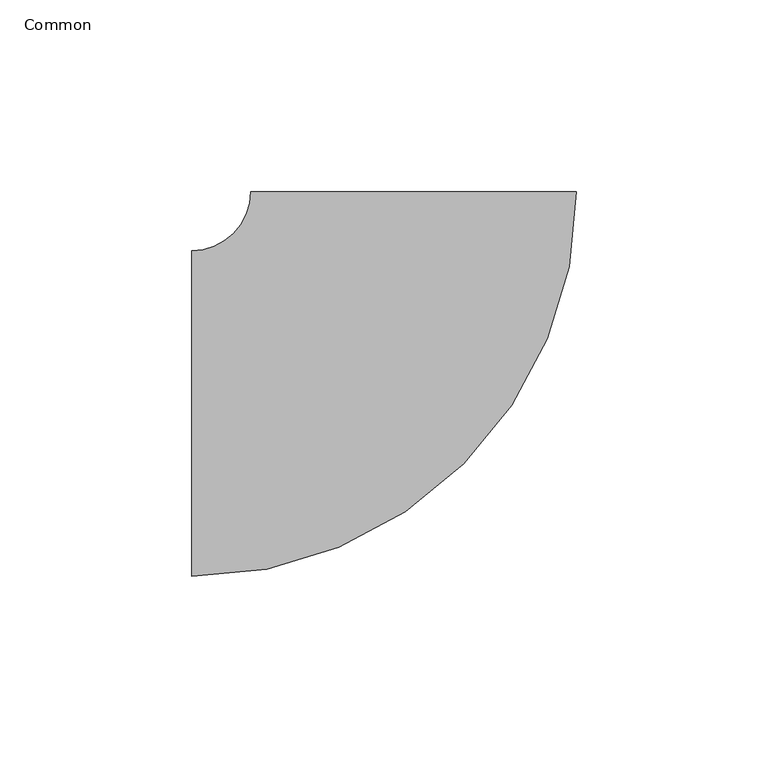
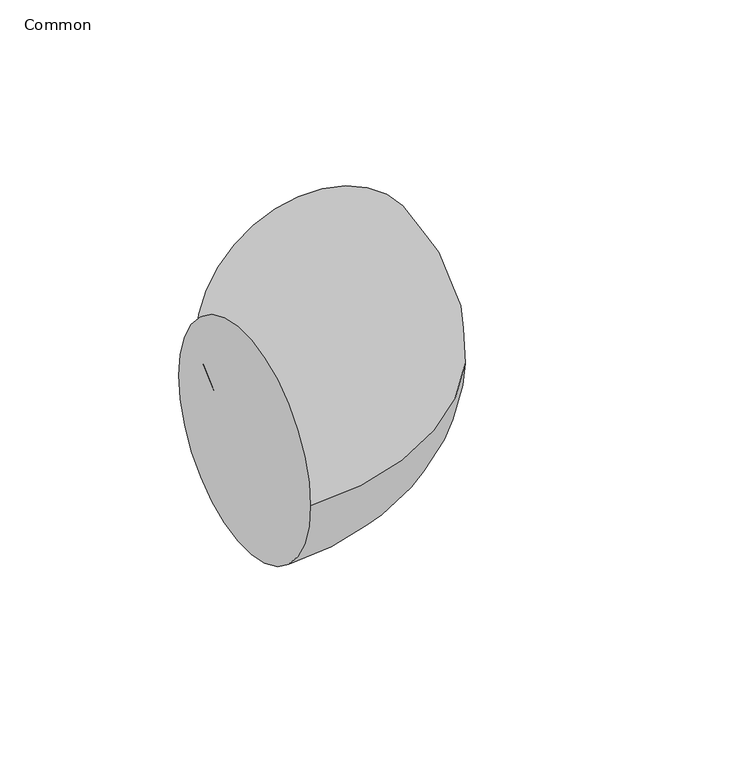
"""IFC4 building model written with IfcOpenShell, lengths in millimetres: pipe fitting geometry, 011_エルボ : Common."""

from ifc_helpers import new_model, si_unit, point, frame, origin, place, context, project, spatial, circle_curve, ellipse_curve, trimmed, source, transform, mapped, element, save
from ifc_brep_helpers import plane_surface, revolved_surface, advanced_brep


def common_9c93153a(model_context):
    return source(origin(), model_context, "Body", "AdvancedBrep", [
        advanced_brep(
        [(-58.0, -42.5, 0.0), (-58.0, 42.5, 0.0), (42.5, 58.0, 0.0), (-42.5, 58.0, 0.0)],
        [
            (0, 1, circle_curve(frame((-58.0, 0.0, 0.0), z_axis=(-1.0, 0.0, 0.0), x_axis=(0.0, 1.0, 0.0)), 42.5)),
            (1, 0, circle_curve(frame((-58.0, 0.0, 0.0), z_axis=(-1.0, 0.0, 0.0), x_axis=(0.0, 1.0, 0.0)), 42.5)),
            (2, 3, circle_curve(frame((0.0, 58.0, 0.0), z_axis=(0.0, 1.0, 0.0), x_axis=(-1.0, 0.0, 0.0)), 42.5)),
            (3, 2, circle_curve(frame((0.0, 58.0, 0.0), z_axis=(0.0, 1.0, 0.0), x_axis=(-1.0, 0.0, 0.0)), 42.5)),
            (3, 1, circle_curve(frame((-58.0, 58.0, 0.0), z_axis=(0.0, 0.0, -1.0), x_axis=(0.0, -1.0, 0.0)), 15.5)),
            (0, 2, circle_curve(frame((-58.0, 58.0, 0.0), z_axis=(0.0, 0.0, 1.0), x_axis=(0.0, -1.0, 0.0)), 100.5)),
        ],
        [
            plane_surface(frame((-58.0, 0.0, 0.0), z_axis=(-1.0, 0.0, 0.0), x_axis=(0.0, 0.0, 1.0))),
            plane_surface(frame((0.0, 58.0, 0.0), z_axis=(0.0, 1.0, 0.0), x_axis=(0.0, 0.0, 1.0))),
            revolved_surface(trimmed(ellipse_curve(frame((-58.0, 0.0, 0.0), z_axis=(-1.0, 0.0, 0.0), x_axis=(0.0, 1.0, 0.0)), 42.5, 42.5), [point((-58.0, -42.5, 0.0))], [point((-58.0, 42.5, 0.0))], True, "CARTESIAN"), (-58.0, 58.0, 0.0), (0.0, 0.0, 1.0)),
            revolved_surface(trimmed(ellipse_curve(frame((-58.0, 0.0, 0.0), z_axis=(-1.0, 0.0, 0.0), x_axis=(0.0, 1.0, 0.0)), 42.5, 42.5), [point((-58.0, 42.5, 0.0))], [point((-58.0, -42.5, 0.0))], True, "CARTESIAN"), (-58.0, 58.0, 0.0), (0.0, 0.0, 1.0)),
        ],
        [
            (0, [[1, 2]]),
            (1, [[3, 4]]),
            (2, [[5, -1, 6, -4]]),
            (3, [[-6, -2, -5, -3]]),
        ],
    ),
    ])


if __name__ == "__main__":
    model = new_model("IFC4")
    model_context = context("Model", 3, world=origin())
    ifc_project = project(units=[si_unit("LENGTHUNIT", "METRE", prefix="MILLI")], contexts=[model_context])
    site = spatial("IfcSite", under=ifc_project)
    building = spatial("IfcBuilding", under=site)
    placement = place(None, origin())
    common_shape = common_9c93153a(model_context)
    element("IfcPipeFitting", 1, ObjectType="011_エルボ : Common", at=placement, inside=building, context=model_context, shape_type="MappedRepresentation", body=[
        mapped(common_shape, transform((0.0, 0.0, 0.0), x_axis=(1.0, 0.0, 0.0), y_axis=(0.0, 1.0, 0.0), z_axis=(0.0, 0.0, 1.0))),
    ])
    save(model, "model.ifc")
